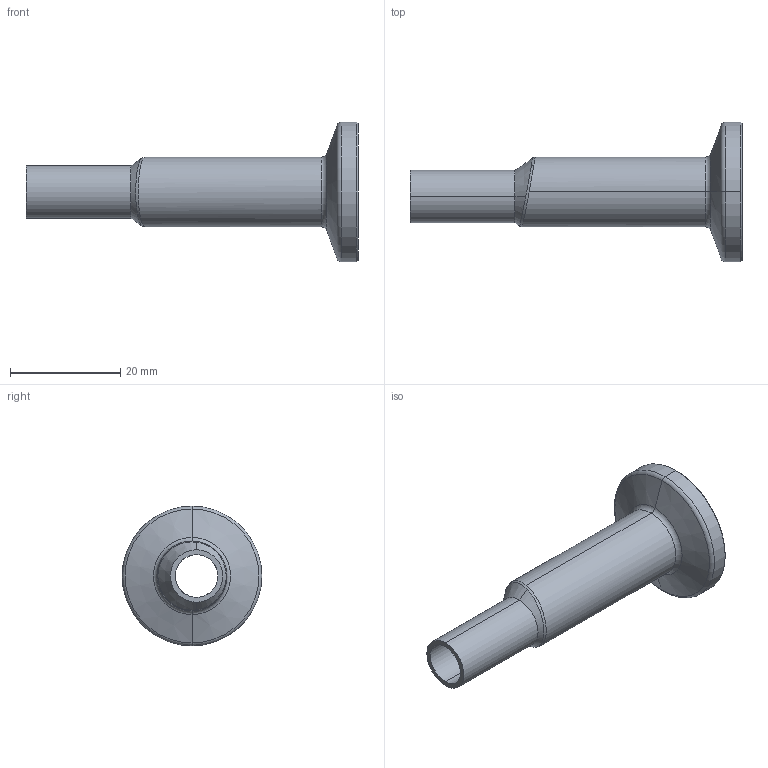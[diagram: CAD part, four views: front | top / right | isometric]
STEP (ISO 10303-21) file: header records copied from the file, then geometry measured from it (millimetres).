
FILE_DESCRIPTION (( 'STEP AP214' ), '1' );
FILE_NAME ('TE32SCW6L.5x.375-...STEP', '2016-06-01T08:48:40', ( 'eran' ), ( '' ), 'SwSTEP 2.0', 'SolidWorks 2016', '' );
FILE_SCHEMA (( 'AUTOMOTIVE_DESIGN' ));
Length unit declared in the file: millimetre
Products named in the file (1): TE32SCW6L.5x.375-..
Bounding box: 60.33 x 25.4 x 25.4 mm (x, y, z)
Volume: 4800 mm3; surface area: 4785.1 mm2
Topology: 1 solids, 1 shells, 39 faces, 85 edges, 49 vertices
Faces by surface type: cone 13, cylinder 12, torus 9, plane 3, bspline 2
Entity records: 1570 total; most frequent: CARTESIAN_POINT 683, DIRECTION 192, ORIENTED_EDGE 170, EDGE_CURVE 85, AXIS2_PLACEMENT_3D 84, VERTEX_POINT 49, CIRCLE 46, EDGE_LOOP 42
